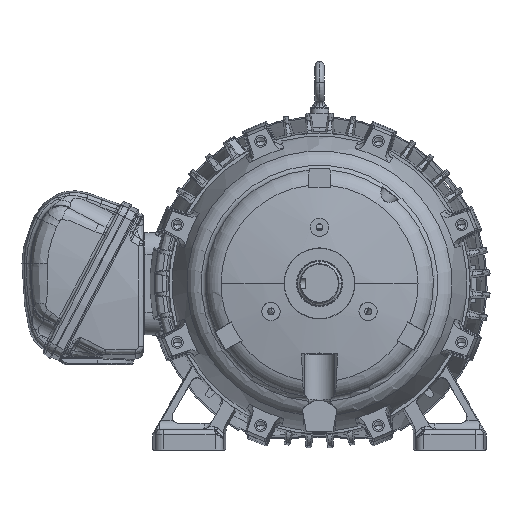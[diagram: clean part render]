
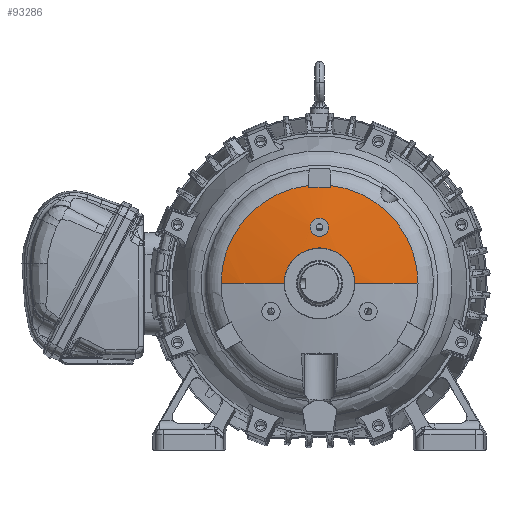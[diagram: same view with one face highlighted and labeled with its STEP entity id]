
A CAD part, top view. The second image highlights one B-rep face of the part: STEP entity #93286.
In plain terms, the highlighted spherical face has radius 558.8 mm.
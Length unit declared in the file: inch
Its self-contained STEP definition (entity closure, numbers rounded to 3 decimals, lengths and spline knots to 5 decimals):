
#72585=CARTESIAN_POINT('',(0.,0.,-3.78825));
#72586=DIRECTION('',(0.,0.,-1.));
#72587=DIRECTION('',(-1.,0.,0.));
#72588=AXIS2_PLACEMENT_3D('',#72585,#72586,#72587);
#72590=CARTESIAN_POINT('',(-0.5211,4.69413,
-3.78825));
#72667=CARTESIAN_POINT('',(0.5211,4.69413,
-3.78825));
#72669=CARTESIAN_POINT('',(0.,0.,-3.78825));
#72670=DIRECTION('',(0.,0.,-1.));
#72671=DIRECTION('',(0.11,0.994,0.));
#72672=AXIS2_PLACEMENT_3D('',#72669,#72670,#72671);
#72764=CARTESIAN_POINT('',(0.,0.,17.6988));
#72765=DIRECTION('',(0.,1.,0.));
#72766=DIRECTION('',(-0.077,0.,-0.997));
#72767=AXIS2_PLACEMENT_3D('',#72764,#72765,#72766);
#72819=CARTESIAN_POINT('',(0.,0.,17.6988));
#72820=DIRECTION('',(0.,-1.,0.));
#72821=DIRECTION('',(0.077,0.,-0.997));
#72822=AXIS2_PLACEMENT_3D('',#72819,#72820,#72821);
#79744=CARTESIAN_POINT('',(0.,0.,-4.23505));
#79745=DIRECTION('',(0.,0.,1.));
#79746=DIRECTION('',(1.,0.,0.));
#79747=AXIS2_PLACEMENT_3D('',#79744,#79745,#79746);
#79763=CARTESIAN_POINT('',(-0.4375,2.6875,-4.13204));
#79764=CARTESIAN_POINT('',(-0.4375,2.6483,-4.13687));
#79765=CARTESIAN_POINT('',(-0.42691,2.57134,
-4.14634));
#79766=CARTESIAN_POINT('',(-0.38355,2.46768,
-4.15909));
#79767=CARTESIAN_POINT('',(-0.31828,2.38102,
-4.16974));
#79768=CARTESIAN_POINT('',(-0.23627,2.31458,
-4.1779));
#79769=CARTESIAN_POINT('',(-0.14579,2.27095,
-4.18326));
#79770=CARTESIAN_POINT('',(-0.04754,2.2489,
-4.18597));
#79771=CARTESIAN_POINT('',(0.04935,2.24912,
-4.18594));
#79772=CARTESIAN_POINT('',(0.14728,2.27148,
-4.1832));
#79773=CARTESIAN_POINT('',(0.23766,2.31548,
-4.17779));
#79774=CARTESIAN_POINT('',(0.31904,2.38187,
-4.16964));
#79775=CARTESIAN_POINT('',(0.38402,2.46854,
-4.15898));
#79776=CARTESIAN_POINT('',(0.42702,2.57191,
-4.14627));
#79777=CARTESIAN_POINT('',(0.4375,2.64851,-4.13684));
#79778=CARTESIAN_POINT('',(0.4375,2.6875,-4.13204));
#79780=CARTESIAN_POINT('',(0.4375,2.6875,-4.13204));
#79781=CARTESIAN_POINT('',(0.4375,2.72356,-4.12761));
#79782=CARTESIAN_POINT('',(0.42861,2.79683,
-4.11858));
#79783=CARTESIAN_POINT('',(0.38606,2.90394,
-4.10538));
#79784=CARTESIAN_POINT('',(0.31614,2.9974,
-4.09386));
#79785=CARTESIAN_POINT('',(0.22307,3.06989,
-4.08492));
#79786=CARTESIAN_POINT('',(0.11538,3.11479,
-4.07938));
#79787=CARTESIAN_POINT('',(0.00004,3.1301,
-4.07749));
#79788=CARTESIAN_POINT('',(-0.11535,3.11479,
-4.07938));
#79789=CARTESIAN_POINT('',(-0.22292,3.06997,
-4.08491));
#79790=CARTESIAN_POINT('',(-0.3161,2.99748,
-4.09385));
#79791=CARTESIAN_POINT('',(-0.38617,2.90377,
-4.1054));
#79792=CARTESIAN_POINT('',(-0.42867,2.79657,
-4.11861));
#79793=CARTESIAN_POINT('',(-0.4375,2.72344,-4.12762));
#79794=CARTESIAN_POINT('',(-0.4375,2.6875,-4.13204));
#79796=CARTESIAN_POINT('',(0.64358,0.01685,
17.6988));
#79797=DIRECTION('',(1.,0.026,0.));
#79798=DIRECTION('',(-0.005,0.208,-0.978));
#79799=AXIS2_PLACEMENT_3D('',#79796,#79797,#79798);
#79801=CARTESIAN_POINT('',(-0.64358,0.01685,
17.6988));
#79802=DIRECTION('',(-1.,0.026,0.));
#79803=DIRECTION('',(0.006,0.213,-0.977));
#79804=AXIS2_PLACEMENT_3D('',#79801,#79802,#79803);
#79854=CARTESIAN_POINT('',(0.,0.,-3.81));
#79855=DIRECTION('',(0.,0.,-1.));
#79856=DIRECTION('',(-0.113,0.994,0.));
#79857=AXIS2_PLACEMENT_3D('',#79854,#79855,#79856);
#82068=VERTEX_POINT('',#72590);
#82071=VERTEX_POINT('',#72667);
#82084=CARTESIAN_POINT('',(-0.52375,4.59315,-3.81));
#82085=VERTEX_POINT('',#82084);
#82086=CARTESIAN_POINT('',(0.52375,4.59315,-3.81));
#82087=VERTEX_POINT('',#82086);
#83076=VERTEX_POINT('',#79763);
#83077=VERTEX_POINT('',#79778);
#83318=CARTESIAN_POINT('',(1.70474,0.,
-4.23505));
#83320=VERTEX_POINT('',#83318);
#83323=CARTESIAN_POINT('',(-1.70474,0.,
-4.23505));
#83324=VERTEX_POINT('',#83323);
#83325=CARTESIAN_POINT('',(-4.72296,0.,-3.78825));
#83326=VERTEX_POINT('',#83325);
#83327=CARTESIAN_POINT('',(4.72296,0.,-3.78825));
#83328=VERTEX_POINT('',#83327);
#93262=CARTESIAN_POINT('',(0.,0.,17.6988));
#93263=DIRECTION('',(0.,0.,-1.));
#93264=DIRECTION('',(1.,0.,0.));
#93265=AXIS2_PLACEMENT_3D('',#93262,#93263,#93264);
#93266=SPHERICAL_SURFACE('',#93265,22.);
#93267=ORIENTED_EDGE('',*,*,#93228,.F.);
#93268=ORIENTED_EDGE('',*,*,#85028,.T.);
#93269=ORIENTED_EDGE('',*,*,#84967,.F.);
#93271=ORIENTED_EDGE('',*,*,#93270,.F.);
#93273=ORIENTED_EDGE('',*,*,#93272,.F.);
#93275=ORIENTED_EDGE('',*,*,#93274,.F.);
#93276=ORIENTED_EDGE('',*,*,#84929,.F.);
#93277=ORIENTED_EDGE('',*,*,#84999,.F.);
#93278=EDGE_LOOP('',(#93267,#93268,#93269,#93271,#93273,#93275,#93276,#93277));
#93279=FACE_OUTER_BOUND('',#93278,.F.);
#93281=ORIENTED_EDGE('',*,*,#93280,.F.);
#93283=ORIENTED_EDGE('',*,*,#93282,.F.);
#93284=EDGE_LOOP('',(#93281,#93283));
#93285=FACE_BOUND('',#93284,.F.);
#93286=ADVANCED_FACE('',(#93279,#93285),#93266,.T.);
#72589=CIRCLE('',#72588,4.72296);
#72673=CIRCLE('',#72672,4.72296);
#72768=CIRCLE('',#72767,22.);
#72823=CIRCLE('',#72822,22.);
#79748=CIRCLE('',#79747,1.70475);
#79779=B_SPLINE_CURVE_WITH_KNOTS('',3,(#79763,#79764,#79765,#79766,#79767,
#79768,#79769,#79770,#79771,#79772,#79773,#79774,#79775,#79776,#79777,#79778),
.UNSPECIFIED.,.F.,.F.,(4,1,1,1,1,1,1,1,1,1,1,1,1,4),(0.,0.07692,
0.15385,0.23077,0.30769,0.38462,
0.46154,0.53846,0.61538,0.69231,
0.76923,0.84615,0.92308,1.),.UNSPECIFIED.);
#79795=B_SPLINE_CURVE_WITH_KNOTS('',3,(#79780,#79781,#79782,#79783,#79784,
#79785,#79786,#79787,#79788,#79789,#79790,#79791,#79792,#79793,#79794),
.UNSPECIFIED.,.F.,.F.,(4,1,1,1,1,1,1,1,1,1,1,1,4),(0.,0.08333,
0.16667,0.25,0.33333,0.41667,0.5,
0.58333,0.66667,0.75,0.83333,0.91667,
1.),.UNSPECIFIED.);
#79800=CIRCLE('',#79799,21.99058);
#79805=CIRCLE('',#79804,21.99058);
#79858=CIRCLE('',#79857,4.62292);
#84929=EDGE_CURVE('',#83326,#82068,#72589,.T.);
#84967=EDGE_CURVE('',#82071,#83328,#72673,.T.);
#84999=EDGE_CURVE('',#83324,#83326,#72768,.T.);
#85028=EDGE_CURVE('',#83320,#83328,#72823,.T.);
#93228=EDGE_CURVE('',#83320,#83324,#79748,.T.);
#93270=EDGE_CURVE('',#82087,#82071,#79800,.T.);
#93272=EDGE_CURVE('',#82085,#82087,#79858,.T.);
#93274=EDGE_CURVE('',#82068,#82085,#79805,.T.);
#93280=EDGE_CURVE('',#83076,#83077,#79779,.T.);
#93282=EDGE_CURVE('',#83077,#83076,#79795,.T.);
